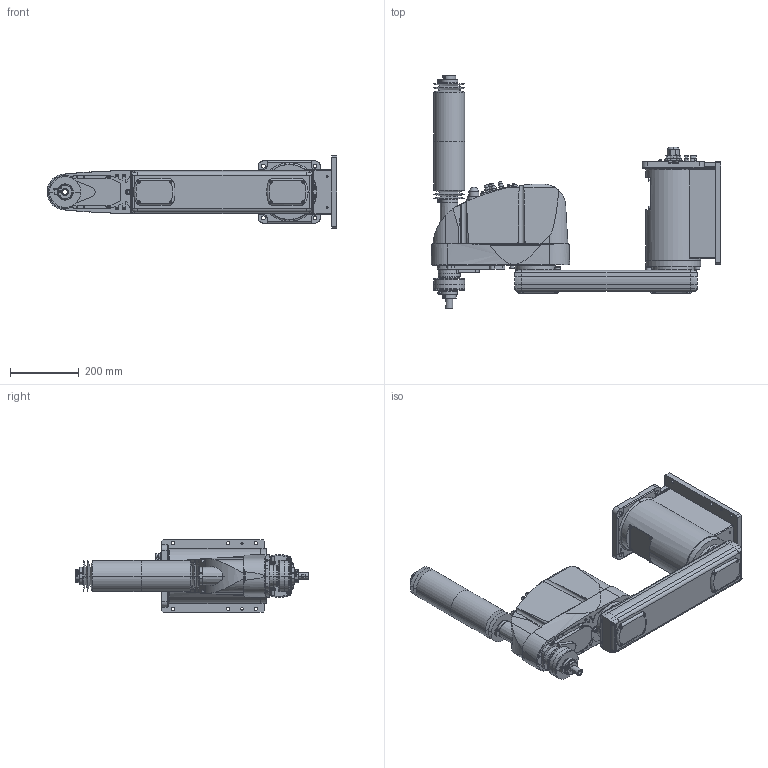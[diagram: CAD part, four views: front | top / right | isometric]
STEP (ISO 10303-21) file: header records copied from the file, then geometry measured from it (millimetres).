
FILE_DESCRIPTION( ( '' ), '1' );
FILE_NAME( '//expscmdclustefs.cadenas.external/client_exchange/iodir/jobs/output/wkb51546056_no0/STEP/G6_653CW_2_03.stp', '2012-11-23T12:57:20', ( '' ), ( '' ), ' ', ' ', ' ' );
FILE_SCHEMA( ( 'CONFIG_CONTROL_DESIGN' ) );
Length unit declared in the file: millimetre
Products named in the file (8): 1; 2; 3; 4; 5; 6; 7; 8
Bounding box: 840 x 676 x 210 mm (x, y, z)
Volume: 23975500.8 mm3; surface area: 1254853.9 mm2
Topology: 8 solids, 8 shells, 1833 faces, 4488 edges, 2870 vertices
Faces by surface type: plane 947, cylinder 614, cone 232, torus 39, sphere 1
Entity records: 57546 total; most frequent: CARTESIAN_POINT 13023, DIRECTION 9488, ORIENTED_EDGE 8924, EDGE_CURVE 4462, AXIS2_PLACEMENT_3D 3405, VERTEX_POINT 2870, LINE 2678, VECTOR 2678
